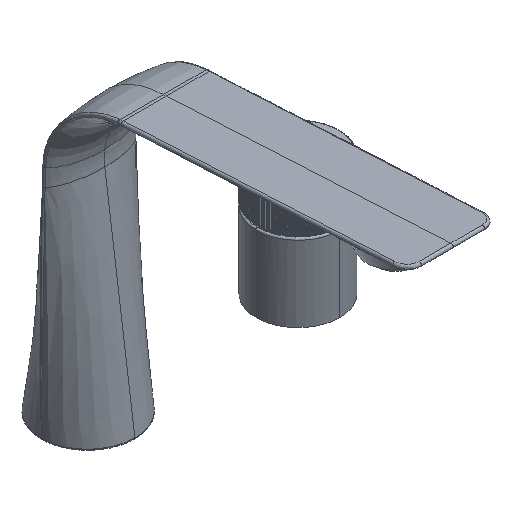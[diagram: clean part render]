
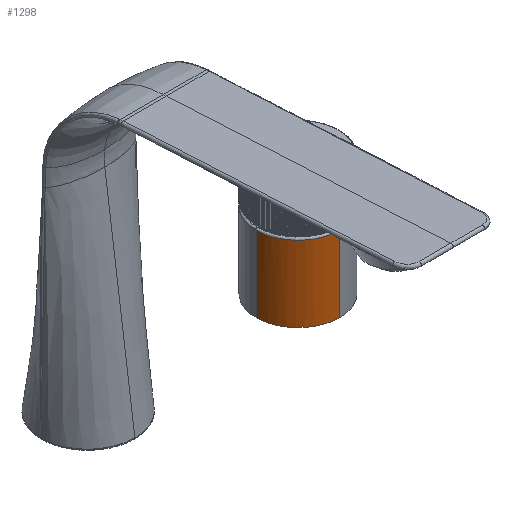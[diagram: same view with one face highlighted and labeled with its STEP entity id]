
A CAD part, isometric view. The second image highlights one B-rep face of the part: STEP entity #1298.
In plain terms, the highlighted free-form (B-spline) face has degree [2, 1] with [3, 2] control points.
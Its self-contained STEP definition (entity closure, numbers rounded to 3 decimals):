
#1298=ADVANCED_FACE('',(#2613),#21260,.T.);
#2613=FACE_OUTER_BOUND('',#3927,.T.);
#3927=EDGE_LOOP('',(#10875,#10876,#10877,#10878,#10879));
#10875=ORIENTED_EDGE('',*,*,#14586,.T.);
#10876=ORIENTED_EDGE('',*,*,#14587,.F.);
#10877=ORIENTED_EDGE('',*,*,#14581,.T.);
#10878=ORIENTED_EDGE('',*,*,#14578,.T.);
#10879=ORIENTED_EDGE('',*,*,#14575,.T.);
#14575=EDGE_CURVE('',#20521,#20520,#16045,.T.);
#14578=EDGE_CURVE('',#20514,#20521,#16048,.T.);
#14581=EDGE_CURVE('',#20522,#20514,#16050,.T.);
#14586=EDGE_CURVE('',#20520,#20525,#16054,.T.);
#14587=EDGE_CURVE('',#20522,#20525,#18205,.T.);
#16045=(
BOUNDED_CURVE()
B_SPLINE_CURVE(2,(#48679,#48680,#48681),.UNSPECIFIED.,.F.,.F.)
B_SPLINE_CURVE_WITH_KNOTS((3,3),(40.282,80.),.UNSPECIFIED.)
CURVE()
GEOMETRIC_REPRESENTATION_ITEM()
RATIONAL_B_SPLINE_CURVE((1.,0.711,1.))
REPRESENTATION_ITEM('')
);
#16048=(
BOUNDED_CURVE()
B_SPLINE_CURVE(2,(#48688,#48689,#48690),.UNSPECIFIED.,.F.,.F.)
B_SPLINE_CURVE_WITH_KNOTS((3,3),(40.,40.282),.UNSPECIFIED.)
CURVE()
GEOMETRIC_REPRESENTATION_ITEM()
RATIONAL_B_SPLINE_CURVE((1.,1.,1.))
REPRESENTATION_ITEM('')
);
#16050=(
BOUNDED_CURVE()
B_SPLINE_CURVE(1,(#48709,#48710),.UNSPECIFIED.,.F.,.F.)
B_SPLINE_CURVE_WITH_KNOTS((2,2),(-39.931,-3.731),
 .UNSPECIFIED.)
CURVE()
GEOMETRIC_REPRESENTATION_ITEM()
RATIONAL_B_SPLINE_CURVE((1.,1.))
REPRESENTATION_ITEM('')
);
#16054=(
BOUNDED_CURVE()
B_SPLINE_CURVE(1,(#48733,#48734),.UNSPECIFIED.,.F.,.F.)
B_SPLINE_CURVE_WITH_KNOTS((2,2),(3.731,39.931),
 .UNSPECIFIED.)
CURVE()
GEOMETRIC_REPRESENTATION_ITEM()
RATIONAL_B_SPLINE_CURVE((1.,1.))
REPRESENTATION_ITEM('')
);
#18205=B_SPLINE_CURVE_WITH_KNOTS('',5,(#48735,#48736,#48737,#48738,#48739,
#48740,#48741,#48742,#48743,#48744,#48745,#48746,#48747,#48748,#48749),
 .UNSPECIFIED.,.F.,.F.,(6,3,3,3,6),(0.,14.035,27.804,40.17,
44.561),.UNSPECIFIED.);
#20514=VERTEX_POINT('',#48302);
#20520=VERTEX_POINT('',#48308);
#20521=VERTEX_POINT('',#48309);
#20522=VERTEX_POINT('',#48310);
#20525=VERTEX_POINT('',#48313);
#21260=(
BOUNDED_SURFACE()
B_SPLINE_SURFACE(2,1,((#48258,#48259),(#48260,#48261),(#48262,#48263)),
 .UNSPECIFIED.,.F.,.F.,.F.)
B_SPLINE_SURFACE_WITH_KNOTS((3,3),(2,2),(40.,80.),
(0.,43.663),.UNSPECIFIED.)
GEOMETRIC_REPRESENTATION_ITEM()
RATIONAL_B_SPLINE_SURFACE(((1.,1.),(0.707,
0.707),(1.,1.)))
REPRESENTATION_ITEM('')
SURFACE()
);
#48258=CARTESIAN_POINT('',(122.818,-203.05,39.241));
#48259=CARTESIAN_POINT('',(122.818,-203.05,-4.421));
#48260=CARTESIAN_POINT('',(102.818,-203.05,39.241));
#48261=CARTESIAN_POINT('',(102.818,-203.05,-4.421));
#48262=CARTESIAN_POINT('',(102.818,-183.05,39.241));
#48263=CARTESIAN_POINT('',(102.818,-183.05,-4.421));
#48302=CARTESIAN_POINT('',(122.818,-203.05,35.51));
#48308=CARTESIAN_POINT('',(102.818,-183.05,35.51));
#48309=CARTESIAN_POINT('',(122.618,-203.049,35.51));
#48310=CARTESIAN_POINT('',(122.818,-203.05,-0.69));
#48313=CARTESIAN_POINT('',(102.818,-183.05,-0.69));
#48679=CARTESIAN_POINT('',(122.618,-203.049,35.51));
#48680=CARTESIAN_POINT('',(102.818,-202.851,35.51));
#48681=CARTESIAN_POINT('',(102.818,-183.05,35.51));
#48688=CARTESIAN_POINT('',(122.818,-203.05,35.51));
#48689=CARTESIAN_POINT('',(122.718,-203.05,35.51));
#48690=CARTESIAN_POINT('',(122.618,-203.049,35.51));
#48709=CARTESIAN_POINT('',(122.818,-203.05,-0.69));
#48710=CARTESIAN_POINT('',(122.818,-203.05,35.51));
#48733=CARTESIAN_POINT('',(102.818,-183.05,35.51));
#48734=CARTESIAN_POINT('',(102.818,-183.05,-0.69));
#48735=CARTESIAN_POINT('',(122.818,-203.05,-0.69));
#48736=CARTESIAN_POINT('',(120.907,-203.05,-0.69));
#48737=CARTESIAN_POINT('',(118.962,-202.822,-0.69));
#48738=CARTESIAN_POINT('',(117.028,-202.349,-0.69));
#48739=CARTESIAN_POINT('',(113.323,-200.93,-0.69));
#48740=CARTESIAN_POINT('',(110.04,-198.627,-0.69));
#48741=CARTESIAN_POINT('',(108.561,-197.286,-0.69));
#48742=CARTESIAN_POINT('',(106.101,-194.422,-0.69));
#48743=CARTESIAN_POINT('',(104.38,-191.095,-0.69));
#48744=CARTESIAN_POINT('',(103.748,-189.447,-0.69));
#48745=CARTESIAN_POINT('',(103.147,-187.158,-0.69));
#48746=CARTESIAN_POINT('',(102.886,-184.854,-0.69));
#48747=CARTESIAN_POINT('',(102.84,-184.249,-0.69));
#48748=CARTESIAN_POINT('',(102.818,-183.648,-0.69));
#48749=CARTESIAN_POINT('',(102.818,-183.05,-0.69));
